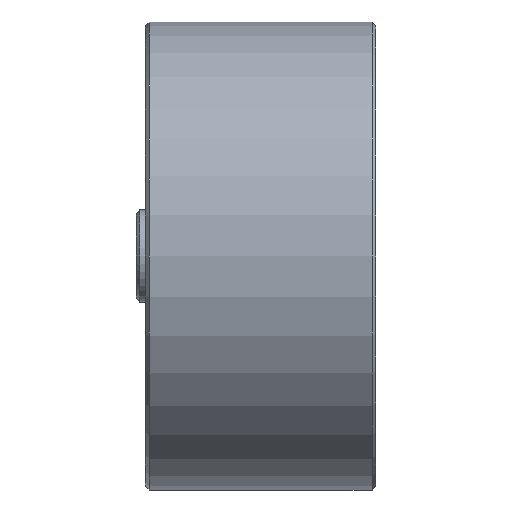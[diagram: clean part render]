
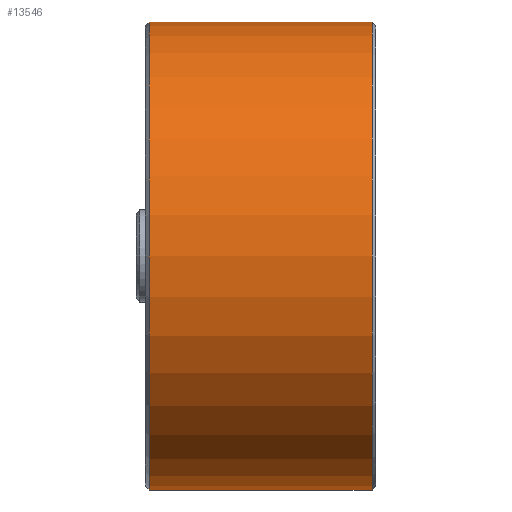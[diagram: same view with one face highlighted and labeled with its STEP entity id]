
A CAD part, left-side view. The second image highlights one B-rep face of the part: STEP entity #13546.
In plain terms, the highlighted cylindrical face has radius 12.7 mm (diameter 25.4 mm), a partial arc.
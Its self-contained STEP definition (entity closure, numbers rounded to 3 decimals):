
#230 = CARTESIAN_POINT ( 'NONE',  ( 0., 5.8, -12.7 ) ) ;
#900 = EDGE_CURVE ( 'NONE', #7218, #2658, #12664, .T. ) ;
#2658 = VERTEX_POINT ( 'NONE', #6947 ) ;
#2912 = DIRECTION ( 'NONE',  ( 0., 0., 1. ) ) ;
#3486 = ORIENTED_EDGE ( 'NONE', *, *, #900, .T. ) ;
#3695 = DIRECTION ( 'NONE',  ( 0., 1., 0. ) ) ;
#3865 = CYLINDRICAL_SURFACE ( 'NONE', #9946, 12.7 ) ;
#4433 = ORIENTED_EDGE ( 'NONE', *, *, #9462, .T. ) ;
#5163 = VERTEX_POINT ( 'NONE', #230 ) ;
#5571 = VERTEX_POINT ( 'NONE', #14551 ) ;
#5639 = CARTESIAN_POINT ( 'NONE',  ( 0., -6.3, 0. ) ) ;
#5805 = DIRECTION ( 'NONE',  ( 0., 1., 0. ) ) ;
#5834 = ORIENTED_EDGE ( 'NONE', *, *, #9215, .F. ) ;
#5970 = LINE ( 'NONE', #10584, #6631 ) ;
#6232 = DIRECTION ( 'NONE',  ( 0., -1., 0. ) ) ;
#6255 = VECTOR ( 'NONE', #11542, 1000. ) ;
#6409 = CARTESIAN_POINT ( 'NONE',  ( 0., -6.3, 12.7 ) ) ;
#6631 = VECTOR ( 'NONE', #3695, 1000. ) ;
#6947 = CARTESIAN_POINT ( 'NONE',  ( 0., 5.8, 12.7 ) ) ;
#7218 = VERTEX_POINT ( 'NONE', #6409 ) ;
#7369 = CIRCLE ( 'NONE', #8815, 12.7 ) ;
#7398 = CIRCLE ( 'NONE', #11747, 12.7 ) ;
#7427 = DIRECTION ( 'NONE',  ( 0., 0., 1. ) ) ;
#8815 = AXIS2_PLACEMENT_3D ( 'NONE', #5639, #5805, #13649 ) ;
#9215 = EDGE_CURVE ( 'NONE', #5571, #5163, #5970, .T. ) ;
#9227 = EDGE_LOOP ( 'NONE', ( #5834, #4433, #3486, #10990 ) ) ;
#9462 = EDGE_CURVE ( 'NONE', #5571, #7218, #7369, .T. ) ;
#9946 = AXIS2_PLACEMENT_3D ( 'NONE', #13232, #12938, #7427 ) ;
#10584 = CARTESIAN_POINT ( 'NONE',  ( 0., 6.5, -12.7 ) ) ;
#10990 = ORIENTED_EDGE ( 'NONE', *, *, #14425, .T. ) ;
#11542 = DIRECTION ( 'NONE',  ( 0., 1., 0. ) ) ;
#11747 = AXIS2_PLACEMENT_3D ( 'NONE', #14153, #6232, #2912 ) ;
#12664 = LINE ( 'NONE', #13873, #6255 ) ;
#12938 = DIRECTION ( 'NONE',  ( 0., 1., 0. ) ) ;
#13232 = CARTESIAN_POINT ( 'NONE',  ( 0., 6.5, 0. ) ) ;
#13546 = ADVANCED_FACE ( 'NONE', ( #14203 ), #3865, .T. ) ;
#13649 = DIRECTION ( 'NONE',  ( 0., 0., -1. ) ) ;
#13873 = CARTESIAN_POINT ( 'NONE',  ( 0., 6.5, 12.7 ) ) ;
#14153 = CARTESIAN_POINT ( 'NONE',  ( 0., 5.8, 0. ) ) ;
#14203 = FACE_OUTER_BOUND ( 'NONE', #9227, .T. ) ;
#14425 = EDGE_CURVE ( 'NONE', #2658, #5163, #7398, .T. ) ;
#14551 = CARTESIAN_POINT ( 'NONE',  ( 0., -6.3, -12.7 ) ) ;
